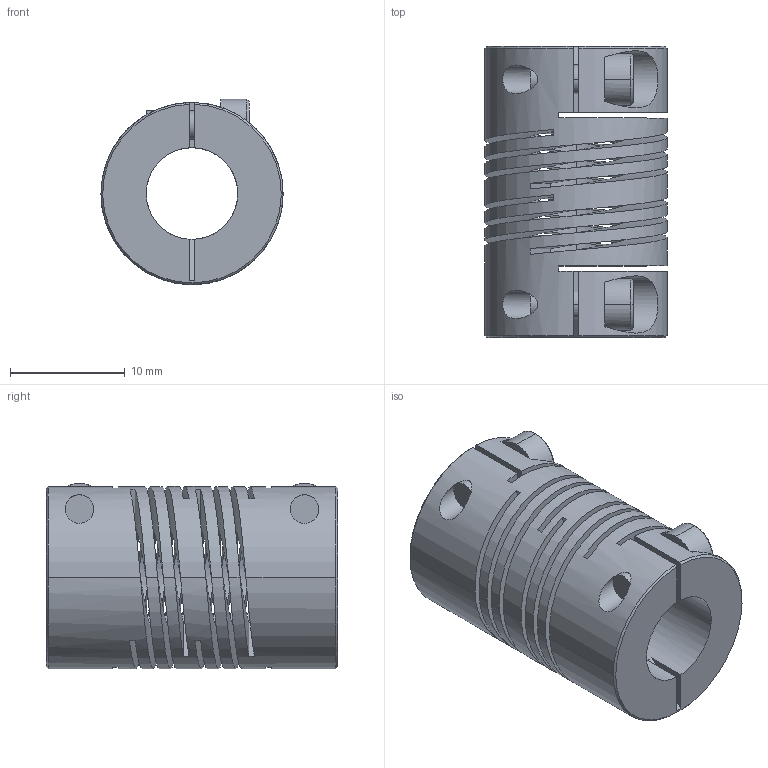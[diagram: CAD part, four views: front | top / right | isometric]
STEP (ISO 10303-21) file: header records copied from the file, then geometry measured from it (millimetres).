
FILE_DESCRIPTION((''),'2;1');
FILE_NAME('727_16','2006-12-05T',('Gary Melling'),(''),'PRO/ENGINEER BY PARAMETRIC TECHNOLOGY CORPORATION, 2006240','PRO/ENGINEER BY PARAMETRIC TECHNOLOGY CORPORATION, 2006240','');
FILE_SCHEMA(('CONFIG_CONTROL_DESIGN'));
Length unit declared in the file: millimetre
Products named in the file (1): 727_16
Bounding box: 15.9 x 25.4 x 16.17 mm (x, y, z)
Volume: 3030.1 mm3; surface area: 4287.9 mm2
Topology: 1 solids, 1 shells, 112 faces, 332 edges, 216 vertices
Faces by surface type: plane 58, cylinder 36, bspline 12, cone 6
Entity records: 5706 total; most frequent: CARTESIAN_POINT 2782, ORIENTED_EDGE 664, DIRECTION 514, EDGE_CURVE 332, VERTEX_POINT 216, VECTOR 182, LINE 182, AXIS2_PLACEMENT_3D 166
